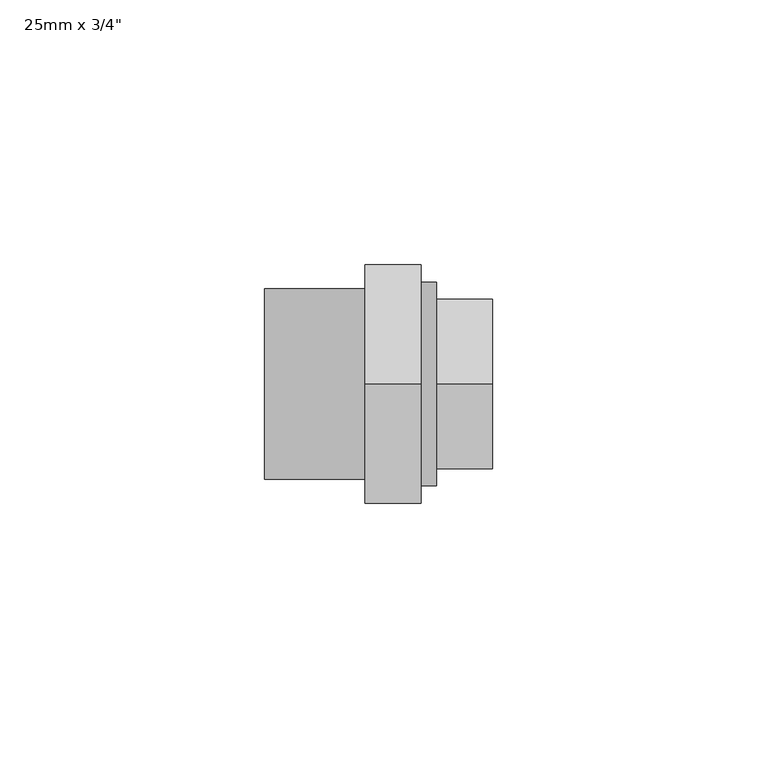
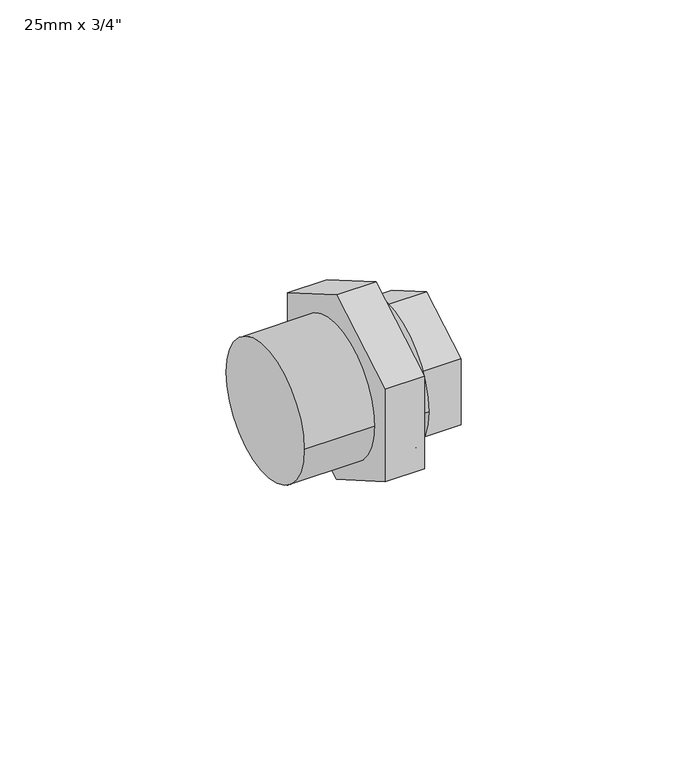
"""IFC4 building model written with IfcOpenShell, lengths in millimetres: pipe fitting geometry."""

from ifc_helpers import new_model, si_unit, point, frame, origin, origin_2d, place, context, project, spatial, circle_curve, trimmed, segment, composite_curve, outline, extrude, source, transform, mapped, element, save
from ifc_brep_helpers import plane_surface, cylinder_surface, advanced_brep


def pipe_fitting_671cbdc4(model_context):
    return source(origin(), model_context, "Body", "SolidModel", [
        advanced_brep(
        [(33.5, 0.0, 18.4752086), (33.5, -16.0, 9.2376043), (33.5, -16.0, -9.2376043), (33.5, 0.0, -18.4752086), (33.5, 16.0, -9.2376043), (33.5, 16.0, 9.2376043), (23.0, 16.0, 9.2376043), (23.0, 0.0, 18.4752086), (23.0, 16.0, -9.2376043), (23.0, 0.0, -18.4752086), (23.0, -16.0, -9.2376043), (23.0, -16.0, 9.2376043), (23.0, -19.25, 0.0), (23.0, 19.25, 0.0), (20.0, 19.25, 0.0), (20.0, -19.25, 0.0), (9.5, 0.0, 25.9807621), (9.5, 22.5, 12.9903811), (9.5, 22.5, -12.9903811), (9.5, 0.0, -25.9807621), (9.5, -22.5, -12.9903811), (9.5, -22.5, 12.9903811), (20.0, 0.0, 25.9807621), (20.0, -22.5, 12.9903811), (20.0, -22.5, -12.9903811), (20.0, 0.0, -25.9807621), (20.0, 22.5, -12.9903811), (20.0, 22.5, 12.9903811)],
        [
            (0, 1),
            (1, 2),
            (2, 3),
            (3, 4),
            (4, 5),
            (5, 0),
            (5, 6),
            (6, 7),
            (7, 0),
            (4, 8),
            (8, 6),
            (3, 9),
            (9, 8),
            (2, 10),
            (10, 9),
            (1, 11),
            (11, 10),
            (7, 11),
            (12, 13, circle_curve(frame((23.0, 0.0, 0.0), z_axis=(1.0, 0.0, 0.0), x_axis=(0.0, 1.0, 0.0)), 19.25)),
            (13, 12, circle_curve(frame((23.0, 0.0, 0.0), z_axis=(1.0, 0.0, 0.0), x_axis=(0.0, 1.0, 0.0)), 19.25)),
            (13, 14),
            (14, 15, circle_curve(frame((20.0, 0.0, 0.0), z_axis=(1.0, 0.0, 0.0), x_axis=(0.0, 1.0, 0.0)), 19.25)),
            (15, 12),
            (15, 14, circle_curve(frame((20.0, 0.0, 0.0), z_axis=(1.0, 0.0, 0.0), x_axis=(0.0, 1.0, 0.0)), 19.25)),
            (16, 17),
            (17, 18),
            (18, 19),
            (19, 20),
            (20, 21),
            (21, 16),
            (22, 23),
            (23, 24),
            (24, 25),
            (25, 26),
            (26, 27),
            (27, 22),
            (16, 22),
            (27, 17),
            (26, 18),
            (25, 19),
            (24, 20),
            (23, 21),
        ],
        [
            plane_surface(frame((33.5, 0.0, 0.0), z_axis=(1.0, 0.0, 0.0), x_axis=(0.0, 0.0, 1.0))),
            plane_surface(frame((23.0, 0.0, 18.4752086), z_axis=(0.0, 0.49999999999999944, 0.866025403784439), x_axis=(1.0, 0.0, 0.0))),
            plane_surface(frame((23.0, 16.0, 9.2376043), z_axis=(0.0, 1.0, 0.0), x_axis=(1.0, 0.0, 0.0))),
            plane_surface(frame((23.0, 16.0, -9.2376043), z_axis=(0.0, 0.4999999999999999, -0.8660254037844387), x_axis=(1.0, 0.0, 0.0))),
            plane_surface(frame((23.0, 0.0, -18.4752086), z_axis=(0.0, -0.49999999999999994, -0.8660254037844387), x_axis=(1.0, 0.0, 0.0))),
            plane_surface(frame((23.0, -16.0, -9.2376043), z_axis=(0.0, -1.0, 0.0), x_axis=(1.0, 0.0, 0.0))),
            plane_surface(frame((23.0, -16.0, 9.2376043), z_axis=(0.0, -0.5000000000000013, 0.8660254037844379), x_axis=(1.0, 0.0, 0.0))),
            plane_surface(frame((23.0, 0.0, 0.0), z_axis=(1.0, 0.0, 0.0), x_axis=(0.0, 0.0, 1.0))),
            cylinder_surface(frame((20.0, 0.0, 0.0), z_axis=(-1.0, 0.0, 0.0), x_axis=(0.0, 1.0, 0.0)), 19.25),
            plane_surface(frame((9.5, 0.0, 0.0), z_axis=(-1.0, 0.0, 0.0), x_axis=(0.0, 0.0, 1.0))),
            plane_surface(frame((20.0, 0.0, 0.0), z_axis=(1.0, 0.0, 0.0), x_axis=(0.0, 0.0, 1.0))),
            plane_surface(frame((9.5, 0.0, 25.9807621), z_axis=(0.0, 0.49999999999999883, 0.8660254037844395), x_axis=(1.0, 0.0, 0.0))),
            plane_surface(frame((9.5, 22.5, 12.9903811), z_axis=(0.0, 1.0, 0.0), x_axis=(1.0, 0.0, 0.0))),
            plane_surface(frame((9.5, 22.5, -12.9903811), z_axis=(0.0, 0.4999999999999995, -0.866025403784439), x_axis=(1.0, 0.0, 0.0))),
            plane_surface(frame((9.5, 0.0, -25.9807621), z_axis=(0.0, -0.49999999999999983, -0.8660254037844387), x_axis=(1.0, 0.0, 0.0))),
            plane_surface(frame((9.5, -22.5, -12.9903811), z_axis=(0.0, -1.0, 0.0), x_axis=(1.0, 0.0, 0.0))),
            plane_surface(frame((9.5, -22.5, 12.9903811), z_axis=(0.0, -0.4999999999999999, 0.8660254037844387), x_axis=(1.0, 0.0, 0.0))),
        ],
        [
            (0, [[1, 2, 3, 4, 5, 6]]),
            (1, [[-6, 7, 8, 9]]),
            (2, [[-5, 10, 11, -7]]),
            (3, [[-4, 12, 13, -10]]),
            (4, [[-3, 14, 15, -12]]),
            (5, [[-2, 16, 17, -14]]),
            (6, [[-1, -9, 18, -16]]),
            (7, [[19, 20], [-8, -11, -13, -15, -17, -18]]),
            (8, [[-20, 21, 22, 23]]),
            (8, [[-19, -23, 24, -21]]),
            (9, [[25, 26, 27, 28, 29, 30]]),
            (10, [[31, 32, 33, 34, 35, 36], [-22, -24]]),
            (11, [[-25, 37, -36, 38]]),
            (12, [[-26, -38, -35, 39]]),
            (13, [[-27, -39, -34, 40]]),
            (14, [[-28, -40, -33, 41]]),
            (15, [[-29, -41, -32, 42]]),
            (16, [[-30, -42, -31, -37]]),
        ],
    ),
        extrude(outline(composite_curve([segment(trimmed(circle_curve(origin_2d(), 18.0), [point((-18.0, 0.0))], [point((18.0, 0.0))], False, "CARTESIAN"), True, "CONTINUOUS"), segment(trimmed(circle_curve(origin_2d(), 18.0), [point((18.0, 0.0))], [point((-18.0, 0.0))], False, "CARTESIAN"), True, "CONTINUOUS")], self_intersect=False)), frame((-9.5, 0.0, 0.0), z_axis=(1.0, 0.0, 0.0), x_axis=(0.0, 1.0, 0.0)), (0.0, 0.0, 1.0), 19.0),
    ])


if __name__ == "__main__":
    model = new_model("IFC4")
    model_context = context("Model", 3, world=origin())
    ifc_project = project(units=[si_unit("LENGTHUNIT", "METRE", prefix="MILLI")], contexts=[model_context])
    site = spatial("IfcSite", under=ifc_project)
    building = spatial("IfcBuilding", under=site)
    placement = place(None, origin())
    pipe_fitting_shape = pipe_fitting_671cbdc4(model_context)
    element("IfcPipeFitting", 1, ObjectType="PipeFitting_HTA_CPVC_3PieceUnions_(CPVC-Brass) : 25mm x 3/4\"", at=placement, inside=building, context=model_context, shape_type="MappedRepresentation", body=[
        mapped(pipe_fitting_shape, transform((0.0, 0.0, 0.0), x_axis=(1.0, 0.0, 0.0), y_axis=(0.0, 1.0, 0.0), z_axis=(0.0, 0.0, 1.0))),
    ])
    save(model, "model.ifc")
